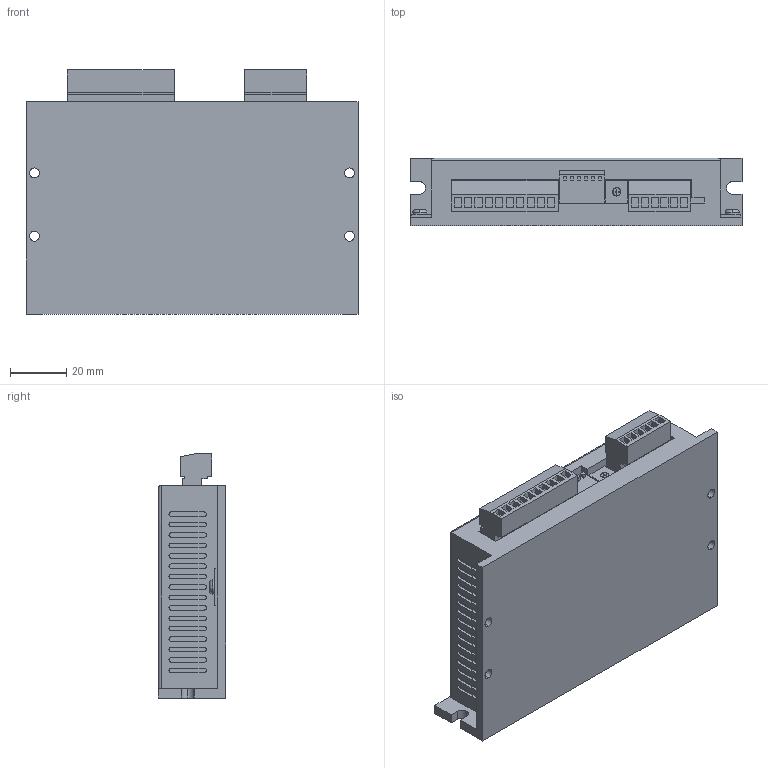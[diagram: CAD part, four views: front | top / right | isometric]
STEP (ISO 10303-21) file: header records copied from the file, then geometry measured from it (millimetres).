
FILE_DESCRIPTION (( 'STEP AP203' ), '1' );
FILE_NAME ('R42-D.STEP', '2023-10-30T07:31:51', ( '' ), ( '' ), 'SwSTEP 2.0', 'SolidWorks 2020', '' );
FILE_SCHEMA (( 'CONFIG_CONTROL_DESIGN' ));
Length unit declared in the file: millimetre
Products named in the file (1): R42-D
Bounding box: 118 x 24 x 86.8 mm (x, y, z)
Volume: 195386.2 mm3; surface area: 32419.9 mm2
Topology: 1 solids, 1 shells, 437 faces, 1058 edges, 702 vertices
Faces by surface type: plane 313, cylinder 120, torus 4
Entity records: 12809 total; most frequent: CARTESIAN_POINT 2204, DIRECTION 2176, ORIENTED_EDGE 2116, EDGE_CURVE 1058, VECTOR 812, LINE 812, VERTEX_POINT 702, AXIS2_PLACEMENT_3D 682
